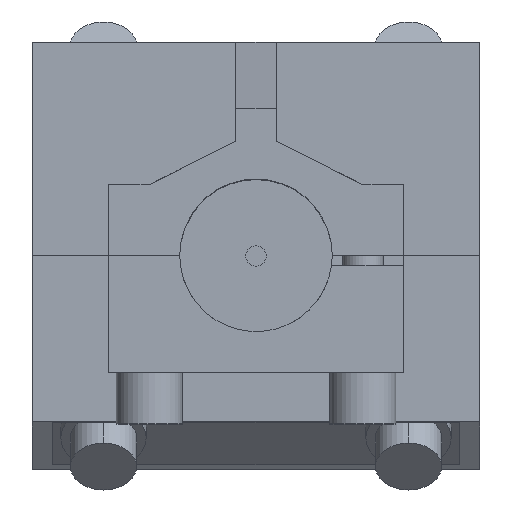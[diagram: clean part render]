
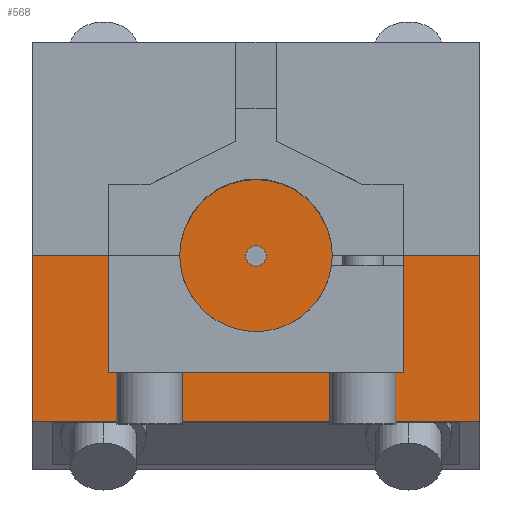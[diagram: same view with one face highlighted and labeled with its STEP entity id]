
A CAD part, top view. The second image highlights one B-rep face of the part: STEP entity #568.
In plain terms, the highlighted planar face has unit normal (0, 0, 1).
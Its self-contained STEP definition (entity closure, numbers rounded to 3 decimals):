
#568=ADVANCED_FACE('Pad.1',(#1430,#1431),#1432,.T.);
#1430=FACE_OUTER_BOUND('',#2677,.T.);
#1431=FACE_BOUND('',#2678,.T.);
#1432=PLANE('',#2679);
#2677=EDGE_LOOP('',(#4178,#4179,#4180,#4181,#4182,#4183));
#2678=EDGE_LOOP('',(#4184,#4185,#4186,#4187));
#2679=AXIS2_PLACEMENT_3D('',#4188,#4189,#4190);
#4178=ORIENTED_EDGE('',*,*,#7484,.T.);
#4179=ORIENTED_EDGE('',*,*,#7435,.F.);
#4180=ORIENTED_EDGE('',*,*,#7476,.F.);
#4181=ORIENTED_EDGE('',*,*,#7485,.T.);
#4182=ORIENTED_EDGE('',*,*,#7486,.F.);
#4183=ORIENTED_EDGE('',*,*,#7449,.T.);
#4184=ORIENTED_EDGE('',*,*,#7487,.F.);
#4185=ORIENTED_EDGE('',*,*,#7488,.F.);
#4186=ORIENTED_EDGE('',*,*,#7238,.F.);
#4187=ORIENTED_EDGE('',*,*,#7232,.F.);
#4188=CARTESIAN_POINT('',(0.0,0.,50.));
#4189=DIRECTION('',(-0.0,0.,1.0));
#4190=DIRECTION('',(0.0,-1.0,0.));
#7232=EDGE_CURVE('',#8616,#8619,#8620,.T.);
#7238=EDGE_CURVE('',#8619,#8626,#8629,.T.);
#7435=EDGE_CURVE('',#8961,#8963,#8964,.T.);
#7449=EDGE_CURVE('',#8985,#8983,#8986,.T.);
#7476=EDGE_CURVE('',#9029,#8961,#9032,.T.);
#7484=EDGE_CURVE('',#8983,#8963,#9043,.T.);
#7485=EDGE_CURVE('',#9029,#9044,#9045,.T.);
#7486=EDGE_CURVE('',#8985,#9044,#9046,.T.);
#7487=EDGE_CURVE('',#9047,#8616,#9048,.T.);
#7488=EDGE_CURVE('',#8626,#9047,#9049,.T.);
#8616=VERTEX_POINT('',#10667);
#8619=VERTEX_POINT('',#10671);
#8620=CIRCLE('',#10672,2.0);
#8626=VERTEX_POINT('',#10679);
#8629=CIRCLE('',#10683,2.0);
#8961=VERTEX_POINT('',#11742);
#8963=VERTEX_POINT('',#11745);
#8964=LINE('',#11746,#11747);
#8983=VERTEX_POINT('',#11864);
#8985=VERTEX_POINT('',#11867);
#8986=LINE('',#11868,#11869);
#9029=VERTEX_POINT('',#11933);
#9032=LINE('',#11937,#11938);
#9043=LINE('',#11951,#11952);
#9044=VERTEX_POINT('',#11953);
#9045=CIRCLE('',#11954,15.);
#9046=LINE('',#11955,#11956);
#9047=VERTEX_POINT('',#11957);
#9048=CIRCLE('',#11958,2.0);
#9049=CIRCLE('',#11959,2.0);
#10667=CARTESIAN_POINT('',(2.0,0.,50.));
#10671=CARTESIAN_POINT('',(-1.755,0.959,50.));
#10672=AXIS2_PLACEMENT_3D('',#15319,#15320,#15321);
#10679=CARTESIAN_POINT('',(-2.0,0.,50.));
#10683=AXIS2_PLACEMENT_3D('',#15330,#15331,#15332);
#11742=CARTESIAN_POINT('',(44.0,0.,50.));
#11745=CARTESIAN_POINT('',(44.0,-32.655,50.));
#11746=CARTESIAN_POINT('',(44.0,-16.328,50.));
#11747=VECTOR('',#15537,1.0);
#11864=CARTESIAN_POINT('',(-44.0,-32.655,50.));
#11867=CARTESIAN_POINT('',(-44.0,0.,50.));
#11868=CARTESIAN_POINT('',(-44.0,-16.328,50.));
#11869=VECTOR('',#15545,1.0);
#11933=CARTESIAN_POINT('',(15.,0.,50.));
#11937=CARTESIAN_POINT('',(29.5,0.,50.));
#11938=VECTOR('',#15568,1.0);
#11951=CARTESIAN_POINT('',(0.0,-32.655,50.));
#11952=VECTOR('',#15583,1.0);
#11953=CARTESIAN_POINT('',(-15.,0.,50.));
#11954=AXIS2_PLACEMENT_3D('',#15584,#15585,#15586);
#11955=CARTESIAN_POINT('',(-29.5,0.,50.));
#11956=VECTOR('',#15587,1.0);
#11957=CARTESIAN_POINT('',(1.755,-0.959,50.));
#11958=AXIS2_PLACEMENT_3D('',#15588,#15589,#15590);
#11959=AXIS2_PLACEMENT_3D('',#15591,#15592,#15593);
#15319=CARTESIAN_POINT('',(0.,0.,50.));
#15320=DIRECTION('',(-0.0,0.,1.0));
#15321=DIRECTION('',(0.0,-1.0,0.));
#15330=CARTESIAN_POINT('',(0.0,0.,50.));
#15331=DIRECTION('',(-0.0,0.,1.0));
#15332=DIRECTION('',(0.0,-1.0,0.));
#15537=DIRECTION('',(0.0,-1.0,0.));
#15545=DIRECTION('',(0.0,-1.0,0.));
#15568=DIRECTION('',(1.0,0.0,0.0));
#15583=DIRECTION('',(1.0,0.0,0.0));
#15584=CARTESIAN_POINT('',(0.,0.,50.));
#15585=DIRECTION('',(-0.0,0.,1.0));
#15586=DIRECTION('',(0.0,-1.0,0.));
#15587=DIRECTION('',(1.0,0.0,0.0));
#15588=CARTESIAN_POINT('',(0.,0.,50.));
#15589=DIRECTION('',(-0.0,0.,1.0));
#15590=DIRECTION('',(0.0,-1.0,0.));
#15591=CARTESIAN_POINT('',(0.0,0.,50.));
#15592=DIRECTION('',(-0.0,0.,1.0));
#15593=DIRECTION('',(0.0,-1.0,0.));
